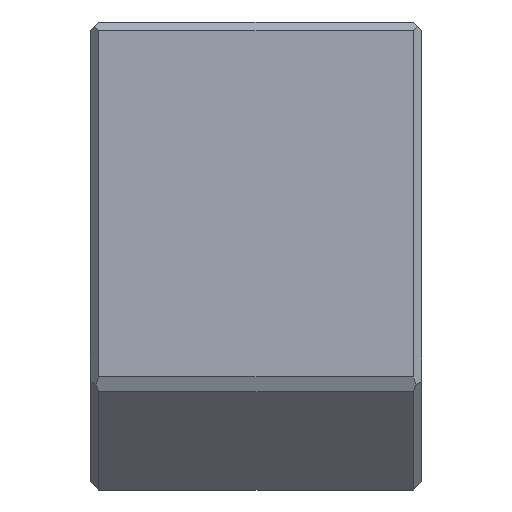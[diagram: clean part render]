
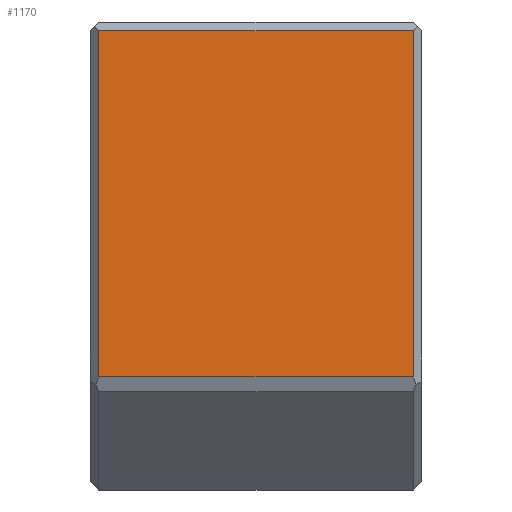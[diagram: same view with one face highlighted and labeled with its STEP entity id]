
A CAD part, left-side view. The second image highlights one B-rep face of the part: STEP entity #1170.
In plain terms, the highlighted planar face has unit normal (-1, 0, 0).
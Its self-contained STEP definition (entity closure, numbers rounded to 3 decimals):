
#139 = VERTEX_POINT ( 'NONE', #8337 ) ;
#744 = VECTOR ( 'NONE', #8495, 1000. ) ;
#991 = EDGE_CURVE ( 'NONE', #4928, #139, #5398, .T. ) ;
#1170 = ADVANCED_FACE ( 'NONE', ( #1976 ), #6385, .T. ) ;
#1206 = EDGE_CURVE ( 'NONE', #2919, #4561, #7906, .T. ) ;
#1962 = VECTOR ( 'NONE', #3876, 1000. ) ;
#1976 = FACE_OUTER_BOUND ( 'NONE', #4181, .T. ) ;
#2919 = VERTEX_POINT ( 'NONE', #4612 ) ;
#3073 = CARTESIAN_POINT ( 'NONE',  ( -51.7, -27., 18.35 ) ) ;
#3716 = ORIENTED_EDGE ( 'NONE', *, *, #991, .T. ) ;
#3876 = DIRECTION ( 'NONE',  ( 0., 1., 0. ) ) ;
#3902 = CARTESIAN_POINT ( 'NONE',  ( -51.7, -0.7, -9.85 ) ) ;
#3993 = CARTESIAN_POINT ( 'NONE',  ( -51.7, -27., 19.05 ) ) ;
#4181 = EDGE_LOOP ( 'NONE', ( #6308, #8717, #5421, #3716 ) ) ;
#4561 = VERTEX_POINT ( 'NONE', #5874 ) ;
#4612 = CARTESIAN_POINT ( 'NONE',  ( -51.7, -26.3, -9.85 ) ) ;
#4928 = VERTEX_POINT ( 'NONE', #6778 ) ;
#5305 = CARTESIAN_POINT ( 'NONE',  ( -51.7, -26.3, 19.05 ) ) ;
#5398 = LINE ( 'NONE', #3902, #9162 ) ;
#5421 = ORIENTED_EDGE ( 'NONE', *, *, #9349, .T. ) ;
#5523 = VECTOR ( 'NONE', #9350, 1000. ) ;
#5675 = EDGE_CURVE ( 'NONE', #139, #2919, #9060, .T. ) ;
#5734 = AXIS2_PLACEMENT_3D ( 'NONE', #3993, #9494, #6471 ) ;
#5874 = CARTESIAN_POINT ( 'NONE',  ( -51.7, -26.3, 18.35 ) ) ;
#6155 = DIRECTION ( 'NONE',  ( 0., 0., -1. ) ) ;
#6197 = CARTESIAN_POINT ( 'NONE',  ( -51.7, -27., -9.85 ) ) ;
#6308 = ORIENTED_EDGE ( 'NONE', *, *, #5675, .T. ) ;
#6385 = PLANE ( 'NONE',  #5734 ) ;
#6471 = DIRECTION ( 'NONE',  ( 0., 0., 1. ) ) ;
#6528 = LINE ( 'NONE', #3073, #1962 ) ;
#6778 = CARTESIAN_POINT ( 'NONE',  ( -51.7, -0.7, 18.35 ) ) ;
#7906 = LINE ( 'NONE', #5305, #5523 ) ;
#8337 = CARTESIAN_POINT ( 'NONE',  ( -51.7, -0.7, -9.85 ) ) ;
#8495 = DIRECTION ( 'NONE',  ( 0., -1., 0. ) ) ;
#8717 = ORIENTED_EDGE ( 'NONE', *, *, #1206, .T. ) ;
#9060 = LINE ( 'NONE', #6197, #744 ) ;
#9162 = VECTOR ( 'NONE', #6155, 1000. ) ;
#9349 = EDGE_CURVE ( 'NONE', #4561, #4928, #6528, .T. ) ;
#9350 = DIRECTION ( 'NONE',  ( 0., 0., 1. ) ) ;
#9494 = DIRECTION ( 'NONE',  ( -1., 0., 0. ) ) ;
